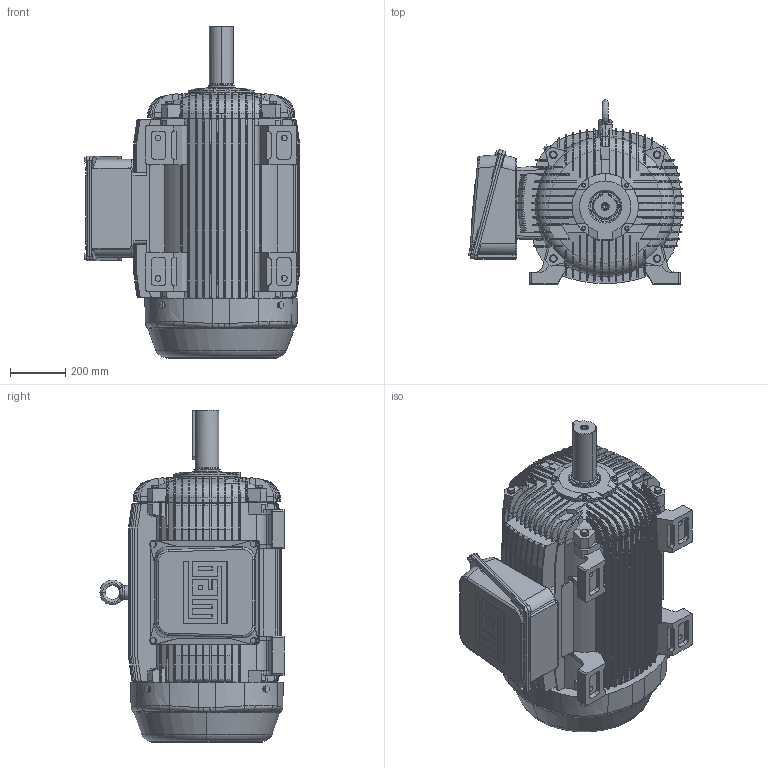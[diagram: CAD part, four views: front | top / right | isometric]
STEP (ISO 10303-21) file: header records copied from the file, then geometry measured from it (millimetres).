
FILE_DESCRIPTION (( 'STEP AP203' ), '1' );
FILE_NAME ('447T_LEFT.STEP', '2006-08-09T15:16:43', ( 'Weg Industrias S.A.' ), ( 'Weg Industrias S.A.' ), 'SwSTEP 2.0', 'SolidWorks 2006104', '' );
FILE_SCHEMA (( 'CONFIG_CONTROL_DESIGN' ));
Products named in the file (1): 447T_LEFT
Bounding box: 781.35 x 666.9 x 1202.9 mm (x, y, z)
Volume: 235741303.6 mm3; surface area: 5087286.4 mm2
Topology: 1 solids, 8 shells, 2700 faces, 7352 edges, 4750 vertices
Faces by surface type: plane 1554, cylinder 550, cone 339, bspline 152, torus 103, sphere 2
Entity records: 116660 total; most frequent: CARTESIAN_POINT 50880, ORIENTED_EDGE 14700, DIRECTION 12750, EDGE_CURVE 7350, VERTEX_POINT 4750, AXIS2_PLACEMENT_3D 4377, LINE 3996, VECTOR 3996
